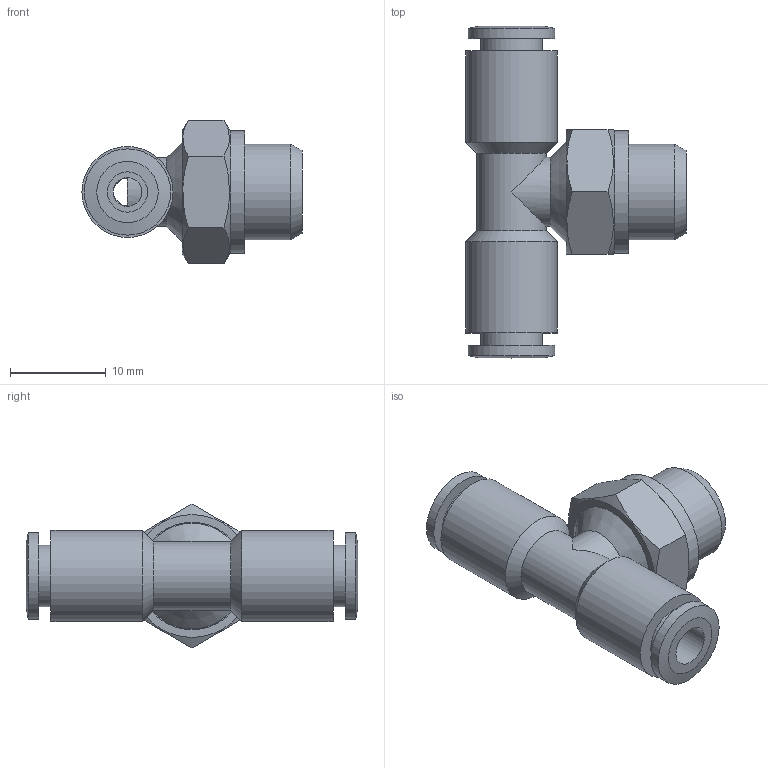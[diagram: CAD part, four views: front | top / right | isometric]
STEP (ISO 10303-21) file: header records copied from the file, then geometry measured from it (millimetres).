
FILE_DESCRIPTION((''),'2;1');
FILE_NAME('C:\Documents and Settings\rivolro1\Documenti\copia di Raccordi\PLASTICA\T20XXXX\T200418.stp','2007-10-31T15:26:23',('Rivolro1'),(''),'Autodesk Inventor 2008','Autodesk Inventor 2008','');
FILE_SCHEMA(('AUTOMOTIVE_DESIGN { 1 0 10303 214 1 1 1 1 }'));
Length unit declared in the file: millimetre
Products named in the file (1): T200418
Bounding box: 22.95 x 34.6 x 15.01 mm (x, y, z)
Volume: 3040.7 mm3; surface area: 2573.5 mm2
Topology: 1 solids, 1 shells, 46 faces, 94 edges, 60 vertices
Faces by surface type: plane 18, cylinder 15, cone 8, bspline 5
Full cylindrical faces by diameter (mm): 3 x1, 6.4 x2, 7.2 x2, 9 x2, 9.5 x2, 10 x1, 11 x1, 11.2 x1, 12.8 x1
Entity records: 1217 total; most frequent: CARTESIAN_POINT 300, DIRECTION 174, ORIENTED_EDGE 128, EDGE_LOOP 84, AXIS2_PLACEMENT_3D 82, EDGE_CURVE 64, VERTEX_POINT 54, FACE_OUTER_BOUND 46
